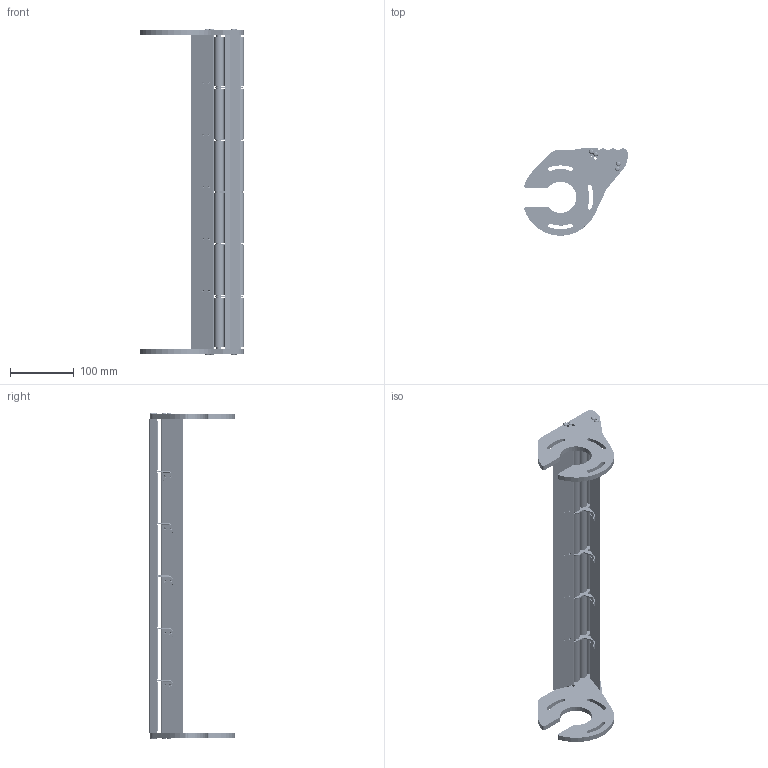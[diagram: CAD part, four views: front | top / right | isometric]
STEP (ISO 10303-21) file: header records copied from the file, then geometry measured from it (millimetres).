
FILE_DESCRIPTION (( 'STEP AP214' ), '1' );
FILE_NAME ('F2 1800 TGRI 1M.STEP', '2024-02-26T14:53:58', ( '' ), ( '' ), 'SwSTEP 2.0', 'SolidWorks 2022', '' );
FILE_SCHEMA (( 'AUTOMOTIVE_DESIGN' ));
Length unit declared in the file: millimetre
Products named in the file (14): Insert M4 TB; TBHC 4X16; PT-F2 - F2-1800 ALU; Galet + roulement F2 1800; ENTRETOISE SA TGRI; ROULEMENT TGRI CAB-F2-R-HEF; F2 1800 TGRI 1M; PSTI F2 1M Symétrie; ENTRETOISE TGRI CAB-F2-R-HEF; PSTI F2 1M; GR F2 1800; SA TGRI + ENTRETOISE; AXE TGRI F2 1800; SA TGRI
Assembly tree (52 placements, depth 3):
  F2 1800 TGRI 1M
    PSTI F2 1M
    PSTI F2 1M Symétrie
    PT-F2 - F2-1800 ALU  x2
    AXE TGRI F2 1800  x3
    ENTRETOISE TGRI CAB-F2-R-HEF  x6
    SA TGRI + ENTRETOISE  x5
      SA TGRI
      ENTRETOISE SA TGRI
    Galet + roulement F2 1800  x18
      GR F2 1800
      ROULEMENT TGRI CAB-F2-R-HEF
    TBHC 4X16  x8
    Insert M4 TB
Bounding box: 162.87 x 136.6 x 514.78 mm (x, y, z)
Volume: 665893.3 mm3; surface area: 316341.1 mm2
Topology: 96 solids, 96 shells, 3377 faces, 7557 edges, 4497 vertices
Faces by surface type: cylinder 1171, cone 1024, plane 573, torus 519, sphere 65, bspline 25
Entity records: 17882 total; most frequent: CARTESIAN_POINT 3318, DIRECTION 3184, ORIENTED_EDGE 2622, EDGE_CURVE 1311, AXIS2_PLACEMENT_3D 1300, VERTEX_POINT 795, CIRCLE 689, EDGE_LOOP 618
